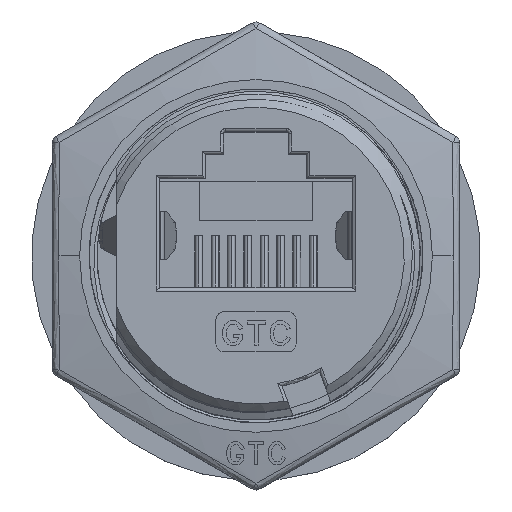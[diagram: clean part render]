
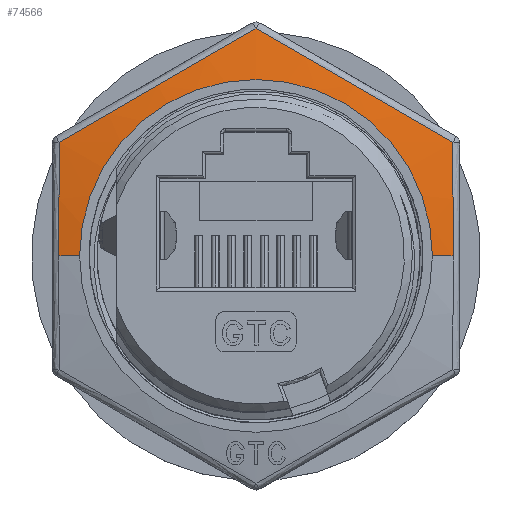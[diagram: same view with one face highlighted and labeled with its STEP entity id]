
A CAD part, top view. The second image highlights one B-rep face of the part: STEP entity #74566.
In plain terms, the highlighted conical face has half-angle 80 degrees and reference radius 11 mm.
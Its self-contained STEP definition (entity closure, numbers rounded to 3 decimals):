
#818 = ORIENTED_EDGE ( 'NONE', *, *, #37976, .T. ) ;
#3355 = CARTESIAN_POINT ( 'NONE',  ( 2.045, 13.001, -13.519 ) ) ;
#4458 = ORIENTED_EDGE ( 'NONE', *, *, #68662, .T. ) ;
#4632 = VERTEX_POINT ( 'NONE', #26181 ) ;
#4971 = CARTESIAN_POINT ( 'NONE',  ( -12.287, 0., -13.393 ) ) ;
#5522 = CARTESIAN_POINT ( 'NONE',  ( 11., 0., -13.167 ) ) ;
#6818 = FACE_OUTER_BOUND ( 'NONE', #51346, .T. ) ;
#8730 = CARTESIAN_POINT ( 'NONE',  ( -10.237, 8.271, -13.519 ) ) ;
#16265 = EDGE_CURVE ( 'NONE', #50401, #55460, #77198, .T. ) ;
#16989 = CARTESIAN_POINT ( 'NONE',  ( 11., 0., -13.167 ) ) ;
#19979 = EDGE_CURVE ( 'NONE', #36159, #4632, #54910, .T. ) ;
#20056 = DIRECTION ( 'NONE',  ( 0.985, 0., -0.174 ) ) ;
#22783 = CARTESIAN_POINT ( 'NONE',  ( 0., 14.174, -13.726 ) ) ;
#24387 = CARTESIAN_POINT ( 'NONE',  ( -12.287, 2.368, -13.393 ) ) ;
#26181 = CARTESIAN_POINT ( 'NONE',  ( -12.287, 0., -13.393 ) ) ;
#27539 = ORIENTED_EDGE ( 'NONE', *, *, #70887, .T. ) ;
#27549 = DIRECTION ( 'NONE',  ( -1., 0., 0. ) ) ;
#27925 = B_SPLINE_CURVE_WITH_KNOTS ( 'NONE', 3,
 ( #42486, #70268, #69401, #83949 ),
 .UNSPECIFIED., .F., .F.,
 ( 4, 4 ),
 ( 0.007, 0.014 ),
 .UNSPECIFIED. ) ;
#29389 = CARTESIAN_POINT ( 'NONE',  ( 10.237, 8.271, -13.519 ) ) ;
#29817 = CARTESIAN_POINT ( 'NONE',  ( 8.195, 9.456, -13.394 ) ) ;
#31048 = VERTEX_POINT ( 'NONE', #33091 ) ;
#33091 = CARTESIAN_POINT ( 'NONE',  ( 12.287, 0., -13.393 ) ) ;
#35954 = VECTOR ( 'NONE', #20056, 1000. ) ;
#36159 = VERTEX_POINT ( 'NONE', #59366 ) ;
#37976 = EDGE_CURVE ( 'NONE', #36159, #73849, #53515, .T. ) ;
#39574 = EDGE_CURVE ( 'NONE', #31048, #80819, #27925, .T. ) ;
#40156 = ORIENTED_EDGE ( 'NONE', *, *, #19979, .F. ) ;
#41586 = ORIENTED_EDGE ( 'NONE', *, *, #39574, .T. ) ;
#41664 = DIRECTION ( 'NONE',  ( -0.985, 0., -0.174 ) ) ;
#42486 = CARTESIAN_POINT ( 'NONE',  ( 12.287, 0., -13.393 ) ) ;
#42766 = CARTESIAN_POINT ( 'NONE',  ( 0., 0., -13.167 ) ) ;
#43211 = DIRECTION ( 'NONE',  ( 0., 0., -1. ) ) ;
#47579 = CARTESIAN_POINT ( 'NONE',  ( 0., 14.174, -13.726 ) ) ;
#50401 = VERTEX_POINT ( 'NONE', #72372 ) ;
#51346 = EDGE_LOOP ( 'NONE', ( #818, #27539, #41586, #61328, #84933, #4458, #40156 ) ) ;
#52385 = B_SPLINE_CURVE_WITH_KNOTS ( 'NONE', 3,
 ( #83238, #29389, #29817, #56329, #3355, #22783 ),
 .UNSPECIFIED., .F., .F.,
 ( 4, 2, 4 ),
 ( 0., 0.007, 0.014 ),
 .UNSPECIFIED. ) ;
#53061 = B_SPLINE_CURVE_WITH_KNOTS ( 'NONE', 3,
 ( #85270, #72031, #24387, #4971 ),
 .UNSPECIFIED., .F., .F.,
 ( 4, 4 ),
 ( 0., 0.007 ),
 .UNSPECIFIED. ) ;
#53515 = CIRCLE ( 'NONE', #60513, 11. ) ;
#54200 = CARTESIAN_POINT ( 'NONE',  ( -12.275, 7.087, -13.726 ) ) ;
#54910 = LINE ( 'NONE', #60648, #68265 ) ;
#55460 = VERTEX_POINT ( 'NONE', #85101 ) ;
#55973 = CARTESIAN_POINT ( 'NONE',  ( -8.191, 9.458, -13.393 ) ) ;
#56329 = CARTESIAN_POINT ( 'NONE',  ( 4.095, 11.823, -13.393 ) ) ;
#59366 = CARTESIAN_POINT ( 'NONE',  ( -11., 0., -13.167 ) ) ;
#60513 = AXIS2_PLACEMENT_3D ( 'NONE', #42766, #43211, #68824 ) ;
#60648 = CARTESIAN_POINT ( 'NONE',  ( -11., 0., -13.167 ) ) ;
#61328 = ORIENTED_EDGE ( 'NONE', *, *, #84380, .T. ) ;
#63810 = CONICAL_SURFACE ( 'NONE', #80699, 11., 1.396 ) ;
#68265 = VECTOR ( 'NONE', #41664, 1000. ) ;
#68662 = EDGE_CURVE ( 'NONE', #55460, #4632, #53061, .T. ) ;
#68824 = DIRECTION ( 'NONE',  ( -1., 0., 0. ) ) ;
#69401 = CARTESIAN_POINT ( 'NONE',  ( 12.281, 4.73, -13.519 ) ) ;
#70268 = CARTESIAN_POINT ( 'NONE',  ( 12.287, 2.366, -13.393 ) ) ;
#70887 = EDGE_CURVE ( 'NONE', #73849, #31048, #85816, .T. ) ;
#72031 = CARTESIAN_POINT ( 'NONE',  ( -12.281, 4.729, -13.519 ) ) ;
#72372 = CARTESIAN_POINT ( 'NONE',  ( 0., 14.174, -13.726 ) ) ;
#73849 = VERTEX_POINT ( 'NONE', #16989 ) ;
#73875 = DIRECTION ( 'NONE',  ( 0., 0., -1. ) ) ;
#74566 = ADVANCED_FACE ( 'NONE', ( #6818 ), #63810, .T. ) ;
#77198 = B_SPLINE_CURVE_WITH_KNOTS ( 'NONE', 3,
 ( #47579, #81130, #81561, #55973, #8730, #54200 ),
 .UNSPECIFIED., .F., .F.,
 ( 4, 2, 4 ),
 ( 0., 0.007, 0.014 ),
 .UNSPECIFIED. ) ;
#78902 = CARTESIAN_POINT ( 'NONE',  ( 12.275, 7.087, -13.726 ) ) ;
#80492 = CARTESIAN_POINT ( 'NONE',  ( 0., 0., -13.167 ) ) ;
#80699 = AXIS2_PLACEMENT_3D ( 'NONE', #80492, #73875, #27549 ) ;
#80819 = VERTEX_POINT ( 'NONE', #78902 ) ;
#81130 = CARTESIAN_POINT ( 'NONE',  ( -2.044, 13.001, -13.519 ) ) ;
#81561 = CARTESIAN_POINT ( 'NONE',  ( -4.092, 11.825, -13.394 ) ) ;
#83238 = CARTESIAN_POINT ( 'NONE',  ( 12.275, 7.087, -13.726 ) ) ;
#83949 = CARTESIAN_POINT ( 'NONE',  ( 12.275, 7.087, -13.726 ) ) ;
#84380 = EDGE_CURVE ( 'NONE', #80819, #50401, #52385, .T. ) ;
#84933 = ORIENTED_EDGE ( 'NONE', *, *, #16265, .T. ) ;
#85101 = CARTESIAN_POINT ( 'NONE',  ( -12.275, 7.087, -13.726 ) ) ;
#85270 = CARTESIAN_POINT ( 'NONE',  ( -12.275, 7.087, -13.726 ) ) ;
#85816 = LINE ( 'NONE', #5522, #35954 ) ;
